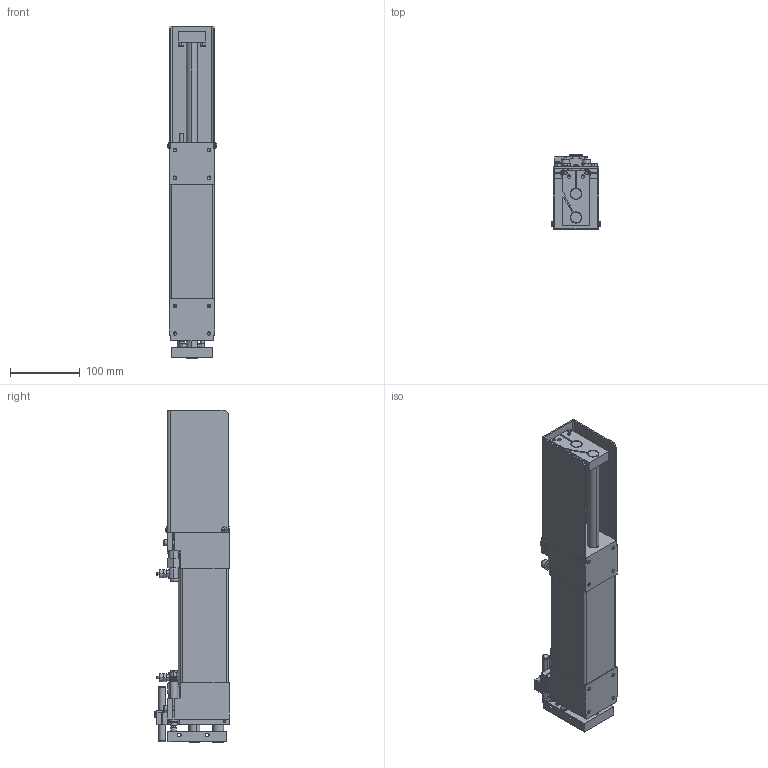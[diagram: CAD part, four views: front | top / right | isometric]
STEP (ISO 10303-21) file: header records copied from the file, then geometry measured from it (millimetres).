
FILE_DESCRIPTION (( 'STEP AP214' ), '1' );
FILE_NAME ('meto-fer_lh-150.STEP', '2005-02-02T03:19:29', ( ' ' ), ( ' ' ), 'SwSTEP 2.0', 'SolidWorks 2003240', '' );
FILE_SCHEMA (( 'AUTOMOTIVE_DESIGN' ));
Length unit declared in the file: millimetre
Products named in the file (19): meto-fer_lh_stop-pin; meto-fer_lh_stop; Socket Head Cap Screw_DIN_DIN 912 M5 x 20 --- 20N; Socket Head Cap Screw_DIN_DIN 912 M5 x 30 --- 30N; meto-fer_lh-150_shaft; meto-fer_lh_tp; meto-fer_lh-150_slide; Pan Head Cross Recess Screw_DIN_ISO 7045 - M4 x 8 - Z --- 8N; Socket Head Cap Screw_DIN_DIN 912 M5 x 16 --- 16N; Socket Head Cap Screw_DIN_DIN 912 M5 x 8 --- 8N; meto-fer_ob-15-10k; meto-fer_as-12-60; meto-fer_lh_sd; meto-fer_lh-150_body; meto-fer_lh-150; meto-fer_lh-150_cover; meto-fer_lh_stop-mt; meto-fer_lh_hdf
Assembly tree (32 placements, depth 3):
  meto-fer_lh-150
    meto-fer_lh-150_slide
      meto-fer_lh_stop  x4
      Socket Head Cap Screw_DIN_DIN 912 M5 x 20 --- 20N
      Socket Head Cap Screw_DIN_DIN 912 M5 x 30 --- 30N
      meto-fer_lh_tp
      meto-fer_lh_sd
      meto-fer_lh-150_shaft  x2
    meto-fer_lh-150_body
      Socket Head Cap Screw_DIN_DIN 912 M5 x 8 --- 8N
      meto-fer_lh_hdf  x2
      meto-fer_lh_stop-mt
      meto-fer_lh-150_body
      Socket Head Cap Screw_DIN_DIN 912 M5 x 16 --- 16N  x4
      meto-fer_ob-15-10k  x2
      Pan Head Cross Recess Screw_DIN_ISO 7045 - M4 x 8 - Z --- 8N  x3
      Socket Head Cap Screw_DIN_DIN 912 M5 x 20 --- 20N  x2
      meto-fer_lh_stop-pin
      meto-fer_as-12-60  x2
      meto-fer_lh-150_cover
Bounding box: 71.04 x 107 x 477 mm (x, y, z)
Volume: 1660830.5 mm3; surface area: 343229.3 mm2
Topology: 30 solids, 30 shells, 1002 faces, 2343 edges, 1405 vertices
Faces by surface type: plane 415, cylinder 302, cone 225, torus 50, sphere 10
Entity records: 17424 total; most frequent: DIRECTION 3071, CARTESIAN_POINT 2912, ORIENTED_EDGE 2622, EDGE_CURVE 1311, AXIS2_PLACEMENT_3D 1183, VERTEX_POINT 818, VECTOR 705, LINE 705
